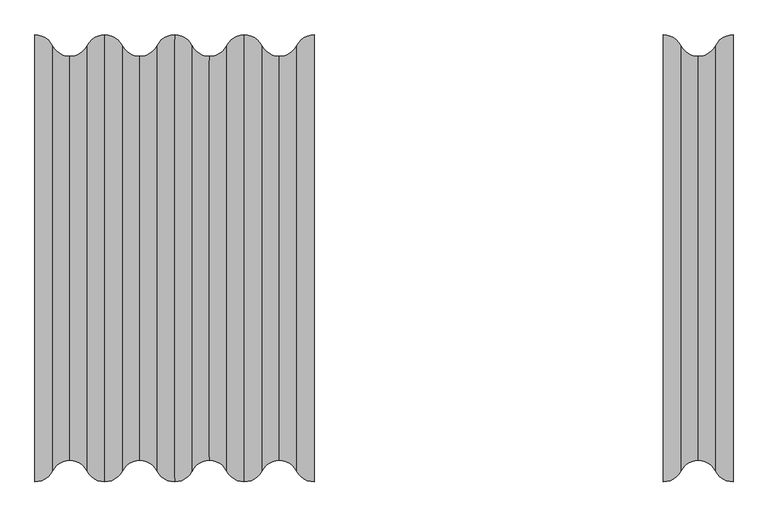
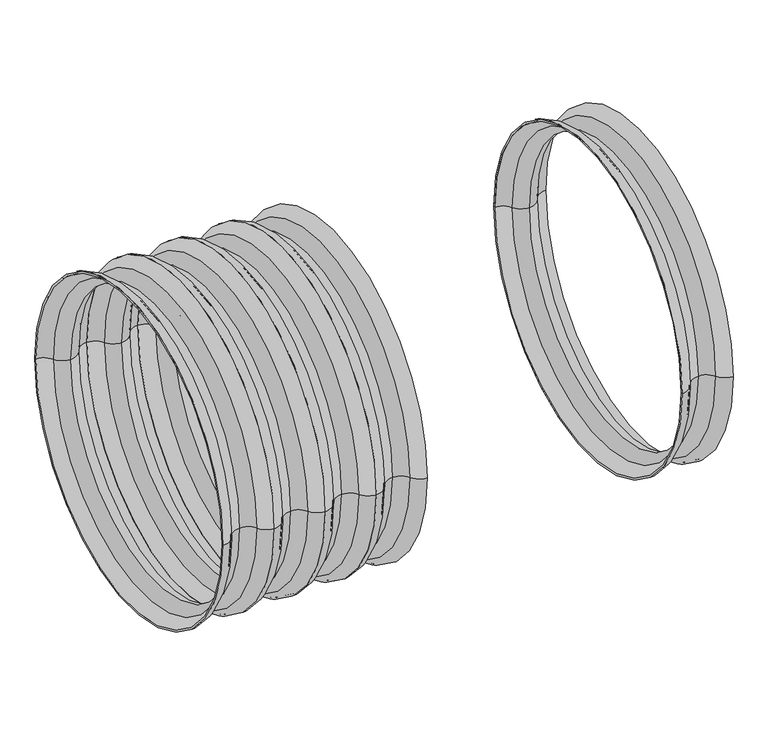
"""IFC4 building model written with IfcOpenShell, lengths in millimetres: pipe fitting geometry, Z_PIF_UN_Q-Bic_Plus_Shaft_Pipe_Wavin_(nested) : PP, RAL8012, ø600mm."""

from ifc_helpers import new_model, si_unit, point, frame, origin, place, context, project, spatial, circle_curve, ellipse_curve, trimmed, source, transform, mapped, element, save
from ifc_brep_helpers import plane_surface, revolved_surface, advanced_brep


def pipe_fitting_064eac1b(model_context):
    return source(origin(), model_context, "Body", "AdvancedBrep", [
        advanced_brep(
        [(420.0, -336.4, 0.0), (420.0, 336.4, 0.0), (446.25, 320.3, 0.0), (446.25, -320.3, 0.0), (420.0, -332.7, 0.0), (420.0, 332.7, 0.0), (446.25, -316.6, 0.0), (446.25, 316.6, 0.0), (472.5, -300.5, 0.0), (472.5, 300.5, 0.0), (498.75, -316.6, 0.0), (498.75, 316.6, 0.0), (525.0, -332.7, 0.0), (525.0, 332.7, 0.0), (525.0, -336.4, 0.0), (525.0, 336.4, 0.0), (498.75, -320.3, 0.0), (498.75, 320.3, 0.0), (472.5, -304.2, 0.0), (472.5, 304.2, 0.0)],
        [
            (0, 1, circle_curve(frame((420.0, 0.0, 0.0), z_axis=(1.0, 0.0, 0.0), x_axis=(0.0, 1.0, 0.0)), 336.4)),
            (1, 2, circle_curve(frame((420.0, 306.9505435, 0.0), z_axis=(0.0, 0.0, -1.0), x_axis=(1.0, 0.0, 0.0)), 29.4494565)),
            (2, 3, circle_curve(frame((446.25, 0.0, 0.0), z_axis=(-1.0, 0.0, 0.0), x_axis=(0.0, 1.0, 0.0)), 320.3)),
            (3, 0, circle_curve(frame((420.0, -306.9505435, 0.0), z_axis=(0.0, 0.0, -1.0), x_axis=(1.0, 0.0, 0.0)), 29.4494565)),
            (1, 0, circle_curve(frame((420.0, 0.0, 0.0), z_axis=(1.0, 0.0, 0.0), x_axis=(0.0, 1.0, 0.0)), 336.4)),
            (3, 2, circle_curve(frame((446.25, 0.0, 0.0), z_axis=(-1.0, 0.0, 0.0), x_axis=(0.0, 1.0, 0.0)), 320.3)),
            (4, 5, circle_curve(frame((420.0, 0.0, 0.0), z_axis=(1.0, 0.0, 0.0), x_axis=(0.0, 1.0, 0.0)), 332.7)),
            (5, 1),
            (0, 4),
            (5, 4, circle_curve(frame((420.0, 0.0, 0.0), z_axis=(1.0, 0.0, 0.0), x_axis=(0.0, 1.0, 0.0)), 332.7)),
            (6, 7, circle_curve(frame((446.25, 0.0, 0.0), z_axis=(1.0, 0.0, 0.0), x_axis=(0.0, 1.0, 0.0)), 316.6)),
            (7, 5, circle_curve(frame((420.0, 303.2505435, 0.0), z_axis=(0.0, 0.0, 1.0), x_axis=(1.0, 0.0, 0.0)), 29.4494565)),
            (4, 6, circle_curve(frame((420.0, -303.2505435, 0.0), z_axis=(0.0, 0.0, 1.0), x_axis=(1.0, 0.0, 0.0)), 29.4494565)),
            (7, 6, circle_curve(frame((446.25, 0.0, 0.0), z_axis=(1.0, 0.0, 0.0), x_axis=(0.0, 1.0, 0.0)), 316.6)),
            (8, 9, circle_curve(frame((472.5, 0.0, 0.0), z_axis=(1.0, 0.0, 0.0), x_axis=(0.0, 1.0, 0.0)), 300.5)),
            (9, 7, circle_curve(frame((472.5, 329.9494565, 0.0), z_axis=(0.0, 0.0, -1.0), x_axis=(1.0, 0.0, 0.0)), 29.4494565)),
            (6, 8, circle_curve(frame((472.5, -329.9494565, 0.0), z_axis=(0.0, 0.0, -1.0), x_axis=(1.0, 0.0, 0.0)), 29.4494565)),
            (9, 8, circle_curve(frame((472.5, 0.0, 0.0), z_axis=(1.0, 0.0, 0.0), x_axis=(0.0, 1.0, 0.0)), 300.5)),
            (10, 11, circle_curve(frame((498.75, 0.0, 0.0), z_axis=(1.0, 0.0, 0.0), x_axis=(0.0, 1.0, 0.0)), 316.6)),
            (11, 9, circle_curve(frame((472.5, 329.9494565, 0.0), z_axis=(0.0, 0.0, -1.0), x_axis=(1.0, 0.0, 0.0)), 29.4494565)),
            (8, 10, circle_curve(frame((472.5, -329.9494565, 0.0), z_axis=(0.0, 0.0, -1.0), x_axis=(1.0, 0.0, 0.0)), 29.4494565)),
            (11, 10, circle_curve(frame((498.75, 0.0, 0.0), z_axis=(1.0, 0.0, 0.0), x_axis=(0.0, 1.0, 0.0)), 316.6)),
            (12, 13, circle_curve(frame((525.0, 0.0, 0.0), z_axis=(1.0, 0.0, 0.0), x_axis=(0.0, 1.0, 0.0)), 332.7)),
            (13, 11, circle_curve(frame((525.0, 303.2505435, 0.0), z_axis=(0.0, 0.0, 1.0), x_axis=(1.0, 0.0, 0.0)), 29.4494565)),
            (10, 12, circle_curve(frame((525.0, -303.2505435, 0.0), z_axis=(0.0, 0.0, 1.0), x_axis=(1.0, 0.0, 0.0)), 29.4494565)),
            (13, 12, circle_curve(frame((525.0, 0.0, 0.0), z_axis=(1.0, 0.0, 0.0), x_axis=(0.0, 1.0, 0.0)), 332.7)),
            (14, 15, circle_curve(frame((525.0, 0.0, 0.0), z_axis=(1.0, 0.0, 0.0), x_axis=(0.0, 1.0, 0.0)), 336.4)),
            (15, 13),
            (12, 14),
            (15, 14, circle_curve(frame((525.0, 0.0, 0.0), z_axis=(1.0, 0.0, 0.0), x_axis=(0.0, 1.0, 0.0)), 336.4)),
            (16, 17, circle_curve(frame((498.75, 0.0, 0.0), z_axis=(1.0, 0.0, 0.0), x_axis=(0.0, 1.0, 0.0)), 320.3)),
            (17, 15, circle_curve(frame((525.0, 306.9505435, 0.0), z_axis=(0.0, 0.0, -1.0), x_axis=(1.0, 0.0, 0.0)), 29.4494565)),
            (14, 16, circle_curve(frame((525.0, -306.9505435, 0.0), z_axis=(0.0, 0.0, -1.0), x_axis=(1.0, 0.0, 0.0)), 29.4494565)),
            (17, 16, circle_curve(frame((498.75, 0.0, 0.0), z_axis=(1.0, 0.0, 0.0), x_axis=(0.0, 1.0, 0.0)), 320.3)),
            (18, 19, circle_curve(frame((472.5, 0.0, 0.0), z_axis=(1.0, 0.0, 0.0), x_axis=(0.0, 1.0, 0.0)), 304.2)),
            (19, 17, circle_curve(frame((472.5, 333.6494565, 0.0), z_axis=(0.0, 0.0, 1.0), x_axis=(1.0, 0.0, 0.0)), 29.4494565)),
            (16, 18, circle_curve(frame((472.5, -333.6494565, 0.0), z_axis=(0.0, 0.0, 1.0), x_axis=(1.0, 0.0, 0.0)), 29.4494565)),
            (19, 18, circle_curve(frame((472.5, 0.0, 0.0), z_axis=(1.0, 0.0, 0.0), x_axis=(0.0, 1.0, 0.0)), 304.2)),
            (2, 19, circle_curve(frame((472.5, 333.6494565, 0.0), z_axis=(0.0, 0.0, 1.0), x_axis=(1.0, 0.0, 0.0)), 29.4494565)),
            (18, 3, circle_curve(frame((472.5, -333.6494565, 0.0), z_axis=(0.0, 0.0, 1.0), x_axis=(1.0, 0.0, 0.0)), 29.4494565)),
        ],
        [
            revolved_surface(trimmed(ellipse_curve(frame((420.0, 306.9505435, 0.0), z_axis=(0.0, 0.0, 1.0), x_axis=(1.0, 0.0, 0.0)), 29.4494565, 29.4494565), [point((446.25, 320.3, 0.0))], [point((420.0, 336.4, 0.0))], True, "CARTESIAN"), (370.0, 0.0, 0.0), (-1.0, 0.0, 0.0)),
            plane_surface(frame((420.0, 0.0, 0.0), z_axis=(-1.0, 0.0, 0.0), x_axis=(0.0, 1.0, 0.0))),
            revolved_surface(trimmed(ellipse_curve(frame((420.0, 303.2505435, 0.0), z_axis=(0.0, 0.0, -1.0), x_axis=(1.0, 0.0, 0.0)), 29.4494565, 29.4494565), [point((420.0, 332.7, 0.0))], [point((446.25, 316.6, 0.0))], True, "CARTESIAN"), (370.0, 0.0, 0.0), (-1.0, 0.0, 0.0)),
            revolved_surface(trimmed(ellipse_curve(frame((472.5, 329.9494565, 0.0), z_axis=(0.0, 0.0, 1.0), x_axis=(1.0, 0.0, 0.0)), 29.4494565, 29.4494565), [point((446.25, 316.6, 0.0))], [point((472.5, 300.5, 0.0))], True, "CARTESIAN"), (370.0, 0.0, 0.0), (-1.0, 0.0, 0.0)),
            revolved_surface(trimmed(ellipse_curve(frame((472.5, 329.9494565, 0.0), z_axis=(0.0, 0.0, 1.0), x_axis=(1.0, 0.0, 0.0)), 29.4494565, 29.4494565), [point((472.5, 300.5, 0.0))], [point((498.75, 316.6, 0.0))], True, "CARTESIAN"), (370.0, 0.0, 0.0), (-1.0, 0.0, 0.0)),
            revolved_surface(trimmed(ellipse_curve(frame((525.0, 303.2505435, 0.0), z_axis=(0.0, 0.0, -1.0), x_axis=(1.0, 0.0, 0.0)), 29.4494565, 29.4494565), [point((498.75, 316.6, 0.0))], [point((525.0, 332.7, 0.0))], True, "CARTESIAN"), (370.0, 0.0, 0.0), (-1.0, 0.0, 0.0)),
            plane_surface(frame((525.0, 0.0, 0.0), z_axis=(1.0, 0.0, 0.0), x_axis=(0.0, 1.0, 0.0))),
            revolved_surface(trimmed(ellipse_curve(frame((525.0, 306.9505435, 0.0), z_axis=(0.0, 0.0, 1.0), x_axis=(1.0, 0.0, 0.0)), 29.4494565, 29.4494565), [point((525.0, 336.4, 0.0))], [point((498.75, 320.3, 0.0))], True, "CARTESIAN"), (370.0, 0.0, 0.0), (-1.0, 0.0, 0.0)),
            revolved_surface(trimmed(ellipse_curve(frame((472.5, 333.6494565, 0.0), z_axis=(0.0, 0.0, -1.0), x_axis=(1.0, 0.0, 0.0)), 29.4494565, 29.4494565), [point((498.75, 320.3, 0.0))], [point((472.5, 304.2, 0.0))], True, "CARTESIAN"), (370.0, 0.0, 0.0), (-1.0, 0.0, 0.0)),
            revolved_surface(trimmed(ellipse_curve(frame((472.5, 333.6494565, 0.0), z_axis=(0.0, 0.0, -1.0), x_axis=(1.0, 0.0, 0.0)), 29.4494565, 29.4494565), [point((472.5, 304.2, 0.0))], [point((446.25, 320.3, 0.0))], True, "CARTESIAN"), (370.0, 0.0, 0.0), (-1.0, 0.0, 0.0)),
        ],
        [
            (0, [[1, 2, 3, 4]]),
            (0, [[5, -4, 6, -2]]),
            (1, [[7, 8, -1, 9]]),
            (1, [[10, -9, -5, -8]]),
            (2, [[11, 12, -7, 13]]),
            (2, [[14, -13, -10, -12]]),
            (3, [[15, 16, -11, 17]]),
            (3, [[18, -17, -14, -16]]),
            (4, [[19, 20, -15, 21]]),
            (4, [[22, -21, -18, -20]]),
            (5, [[23, 24, -19, 25]]),
            (5, [[26, -25, -22, -24]]),
            (6, [[27, 28, -23, 29]]),
            (6, [[30, -29, -26, -28]]),
            (7, [[31, 32, -27, 33]]),
            (7, [[34, -33, -30, -32]]),
            (8, [[35, 36, -31, 37]]),
            (8, [[38, -37, -34, -36]]),
            (9, [[-3, 39, -35, 40]]),
            (9, [[-6, -40, -38, -39]]),
        ],
    ),
        advanced_brep(
        [(315.0, -336.4, 0.0), (315.0, 336.4, 0.0), (341.25, 320.3, 0.0), (341.25, -320.3, 0.0), (315.0, -332.7, 0.0), (315.0, 332.7, 0.0), (341.25, -316.6, 0.0), (341.25, 316.6, 0.0), (367.5, -300.5, 0.0), (367.5, 300.5, 0.0), (393.75, -316.6, 0.0), (393.75, 316.6, 0.0), (420.0, -332.7, 0.0), (420.0, 332.7, 0.0), (420.0, -336.4, 0.0), (420.0, 336.4, 0.0), (393.75, -320.3, 0.0), (393.75, 320.3, 0.0), (367.5, -304.2, 0.0), (367.5, 304.2, 0.0)],
        [
            (0, 1, circle_curve(frame((315.0, 0.0, 0.0), z_axis=(1.0, 0.0, 0.0), x_axis=(0.0, 1.0, 0.0)), 336.4)),
            (1, 2, circle_curve(frame((315.0, 306.9505435, 0.0), z_axis=(0.0, 0.0, -1.0), x_axis=(1.0, 0.0, 0.0)), 29.4494565)),
            (2, 3, circle_curve(frame((341.25, 0.0, 0.0), z_axis=(-1.0, 0.0, 0.0), x_axis=(0.0, 1.0, 0.0)), 320.3)),
            (3, 0, circle_curve(frame((315.0, -306.9505435, 0.0), z_axis=(0.0, 0.0, -1.0), x_axis=(1.0, 0.0, 0.0)), 29.4494565)),
            (1, 0, circle_curve(frame((315.0, 0.0, 0.0), z_axis=(1.0, 0.0, 0.0), x_axis=(0.0, 1.0, 0.0)), 336.4)),
            (3, 2, circle_curve(frame((341.25, 0.0, 0.0), z_axis=(-1.0, 0.0, 0.0), x_axis=(0.0, 1.0, 0.0)), 320.3)),
            (4, 5, circle_curve(frame((315.0, 0.0, 0.0), z_axis=(1.0, 0.0, 0.0), x_axis=(0.0, 1.0, 0.0)), 332.7)),
            (5, 1),
            (0, 4),
            (5, 4, circle_curve(frame((315.0, 0.0, 0.0), z_axis=(1.0, 0.0, 0.0), x_axis=(0.0, 1.0, 0.0)), 332.7)),
            (6, 7, circle_curve(frame((341.25, 0.0, 0.0), z_axis=(1.0, 0.0, 0.0), x_axis=(0.0, 1.0, 0.0)), 316.6)),
            (7, 5, circle_curve(frame((315.0, 303.2505435, 0.0), z_axis=(0.0, 0.0, 1.0), x_axis=(1.0, 0.0, 0.0)), 29.4494565)),
            (4, 6, circle_curve(frame((315.0, -303.2505435, 0.0), z_axis=(0.0, 0.0, 1.0), x_axis=(1.0, 0.0, 0.0)), 29.4494565)),
            (7, 6, circle_curve(frame((341.25, 0.0, 0.0), z_axis=(1.0, 0.0, 0.0), x_axis=(0.0, 1.0, 0.0)), 316.6)),
            (8, 9, circle_curve(frame((367.5, 0.0, 0.0), z_axis=(1.0, 0.0, 0.0), x_axis=(0.0, 1.0, 0.0)), 300.5)),
            (9, 7, circle_curve(frame((367.5, 329.9494565, 0.0), z_axis=(0.0, 0.0, -1.0), x_axis=(1.0, 0.0, 0.0)), 29.4494565)),
            (6, 8, circle_curve(frame((367.5, -329.9494565, 0.0), z_axis=(0.0, 0.0, -1.0), x_axis=(1.0, 0.0, 0.0)), 29.4494565)),
            (9, 8, circle_curve(frame((367.5, 0.0, 0.0), z_axis=(1.0, 0.0, 0.0), x_axis=(0.0, 1.0, 0.0)), 300.5)),
            (10, 11, circle_curve(frame((393.75, 0.0, 0.0), z_axis=(1.0, 0.0, 0.0), x_axis=(0.0, 1.0, 0.0)), 316.6)),
            (11, 9, circle_curve(frame((367.5, 329.9494565, 0.0), z_axis=(0.0, 0.0, -1.0), x_axis=(1.0, 0.0, 0.0)), 29.4494565)),
            (8, 10, circle_curve(frame((367.5, -329.9494565, 0.0), z_axis=(0.0, 0.0, -1.0), x_axis=(1.0, 0.0, 0.0)), 29.4494565)),
            (11, 10, circle_curve(frame((393.75, 0.0, 0.0), z_axis=(1.0, 0.0, 0.0), x_axis=(0.0, 1.0, 0.0)), 316.6)),
            (12, 13, circle_curve(frame((420.0, 0.0, 0.0), z_axis=(1.0, 0.0, 0.0), x_axis=(0.0, 1.0, 0.0)), 332.7)),
            (13, 11, circle_curve(frame((420.0, 303.2505435, 0.0), z_axis=(0.0, 0.0, 1.0), x_axis=(1.0, 0.0, 0.0)), 29.4494565)),
            (10, 12, circle_curve(frame((420.0, -303.2505435, 0.0), z_axis=(0.0, 0.0, 1.0), x_axis=(1.0, 0.0, 0.0)), 29.4494565)),
            (13, 12, circle_curve(frame((420.0, 0.0, 0.0), z_axis=(1.0, 0.0, 0.0), x_axis=(0.0, 1.0, 0.0)), 332.7)),
            (14, 15, circle_curve(frame((420.0, 0.0, 0.0), z_axis=(1.0, 0.0, 0.0), x_axis=(0.0, 1.0, 0.0)), 336.4)),
            (15, 13),
            (12, 14),
            (15, 14, circle_curve(frame((420.0, 0.0, 0.0), z_axis=(1.0, 0.0, 0.0), x_axis=(0.0, 1.0, 0.0)), 336.4)),
            (16, 17, circle_curve(frame((393.75, 0.0, 0.0), z_axis=(1.0, 0.0, 0.0), x_axis=(0.0, 1.0, 0.0)), 320.3)),
            (17, 15, circle_curve(frame((420.0, 306.9505435, 0.0), z_axis=(0.0, 0.0, -1.0), x_axis=(1.0, 0.0, 0.0)), 29.4494565)),
            (14, 16, circle_curve(frame((420.0, -306.9505435, 0.0), z_axis=(0.0, 0.0, -1.0), x_axis=(1.0, 0.0, 0.0)), 29.4494565)),
            (17, 16, circle_curve(frame((393.75, 0.0, 0.0), z_axis=(1.0, 0.0, 0.0), x_axis=(0.0, 1.0, 0.0)), 320.3)),
            (18, 19, circle_curve(frame((367.5, 0.0, 0.0), z_axis=(1.0, 0.0, 0.0), x_axis=(0.0, 1.0, 0.0)), 304.2)),
            (19, 17, circle_curve(frame((367.5, 333.6494565, 0.0), z_axis=(0.0, 0.0, 1.0), x_axis=(1.0, 0.0, 0.0)), 29.4494565)),
            (16, 18, circle_curve(frame((367.5, -333.6494565, 0.0), z_axis=(0.0, 0.0, 1.0), x_axis=(1.0, 0.0, 0.0)), 29.4494565)),
            (19, 18, circle_curve(frame((367.5, 0.0, 0.0), z_axis=(1.0, 0.0, 0.0), x_axis=(0.0, 1.0, 0.0)), 304.2)),
            (2, 19, circle_curve(frame((367.5, 333.6494565, 0.0), z_axis=(0.0, 0.0, 1.0), x_axis=(1.0, 0.0, 0.0)), 29.4494565)),
            (18, 3, circle_curve(frame((367.5, -333.6494565, 0.0), z_axis=(0.0, 0.0, 1.0), x_axis=(1.0, 0.0, 0.0)), 29.4494565)),
        ],
        [
            revolved_surface(trimmed(ellipse_curve(frame((315.0, 306.9505435, 0.0), z_axis=(0.0, 0.0, 1.0), x_axis=(1.0, 0.0, 0.0)), 29.4494565, 29.4494565), [point((341.25, 320.3, 0.0))], [point((315.0, 336.4, 0.0))], True, "CARTESIAN"), (265.0, 0.0, 0.0), (-1.0, 0.0, 0.0)),
            plane_surface(frame((315.0, 0.0, 0.0), z_axis=(-1.0, 0.0, 0.0), x_axis=(0.0, 1.0, 0.0))),
            revolved_surface(trimmed(ellipse_curve(frame((315.0, 303.2505435, 0.0), z_axis=(0.0, 0.0, -1.0), x_axis=(1.0, 0.0, 0.0)), 29.4494565, 29.4494565), [point((315.0, 332.7, 0.0))], [point((341.25, 316.6, 0.0))], True, "CARTESIAN"), (265.0, 0.0, 0.0), (-1.0, 0.0, 0.0)),
            revolved_surface(trimmed(ellipse_curve(frame((367.5, 329.9494565, 0.0), z_axis=(0.0, 0.0, 1.0), x_axis=(1.0, 0.0, 0.0)), 29.4494565, 29.4494565), [point((341.25, 316.6, 0.0))], [point((367.5, 300.5, 0.0))], True, "CARTESIAN"), (265.0, 0.0, 0.0), (-1.0, 0.0, 0.0)),
            revolved_surface(trimmed(ellipse_curve(frame((367.5, 329.9494565, 0.0), z_axis=(0.0, 0.0, 1.0), x_axis=(1.0, 0.0, 0.0)), 29.4494565, 29.4494565), [point((367.5, 300.5, 0.0))], [point((393.75, 316.6, 0.0))], True, "CARTESIAN"), (265.0, 0.0, 0.0), (-1.0, 0.0, 0.0)),
            revolved_surface(trimmed(ellipse_curve(frame((420.0, 303.2505435, 0.0), z_axis=(0.0, 0.0, -1.0), x_axis=(1.0, 0.0, 0.0)), 29.4494565, 29.4494565), [point((393.75, 316.6, 0.0))], [point((420.0, 332.7, 0.0))], True, "CARTESIAN"), (265.0, 0.0, 0.0), (-1.0, 0.0, 0.0)),
            plane_surface(frame((420.0, 0.0, 0.0), z_axis=(1.0, 0.0, 0.0), x_axis=(0.0, 1.0, 0.0))),
            revolved_surface(trimmed(ellipse_curve(frame((420.0, 306.9505435, 0.0), z_axis=(0.0, 0.0, 1.0), x_axis=(1.0, 0.0, 0.0)), 29.4494565, 29.4494565), [point((420.0, 336.4, 0.0))], [point((393.75, 320.3, 0.0))], True, "CARTESIAN"), (265.0, 0.0, 0.0), (-1.0, 0.0, 0.0)),
            revolved_surface(trimmed(ellipse_curve(frame((367.5, 333.6494565, 0.0), z_axis=(0.0, 0.0, -1.0), x_axis=(1.0, 0.0, 0.0)), 29.4494565, 29.4494565), [point((393.75, 320.3, 0.0))], [point((367.5, 304.2, 0.0))], True, "CARTESIAN"), (265.0, 0.0, 0.0), (-1.0, 0.0, 0.0)),
            revolved_surface(trimmed(ellipse_curve(frame((367.5, 333.6494565, 0.0), z_axis=(0.0, 0.0, -1.0), x_axis=(1.0, 0.0, 0.0)), 29.4494565, 29.4494565), [point((367.5, 304.2, 0.0))], [point((341.25, 320.3, 0.0))], True, "CARTESIAN"), (265.0, 0.0, 0.0), (-1.0, 0.0, 0.0)),
        ],
        [
            (0, [[1, 2, 3, 4]]),
            (0, [[5, -4, 6, -2]]),
            (1, [[7, 8, -1, 9]]),
            (1, [[10, -9, -5, -8]]),
            (2, [[11, 12, -7, 13]]),
            (2, [[14, -13, -10, -12]]),
            (3, [[15, 16, -11, 17]]),
            (3, [[18, -17, -14, -16]]),
            (4, [[19, 20, -15, 21]]),
            (4, [[22, -21, -18, -20]]),
            (5, [[23, 24, -19, 25]]),
            (5, [[26, -25, -22, -24]]),
            (6, [[27, 28, -23, 29]]),
            (6, [[30, -29, -26, -28]]),
            (7, [[31, 32, -27, 33]]),
            (7, [[34, -33, -30, -32]]),
            (8, [[35, 36, -31, 37]]),
            (8, [[38, -37, -34, -36]]),
            (9, [[-3, 39, -35, 40]]),
            (9, [[-6, -40, -38, -39]]),
        ],
    ),
        advanced_brep(
        [(210.0, -336.4, 0.0), (210.0, 336.4, 0.0), (236.25, 320.3, 0.0), (236.25, -320.3, 0.0), (210.0, -332.7, 0.0), (210.0, 332.7, 0.0), (236.25, -316.6, 0.0), (236.25, 316.6, 0.0), (262.5, -300.5, 0.0), (262.5, 300.5, 0.0), (288.75, -316.6, 0.0), (288.75, 316.6, 0.0), (315.0, -332.7, 0.0), (315.0, 332.7, 0.0), (315.0, -336.4, 0.0), (315.0, 336.4, 0.0), (288.75, -320.3, 0.0), (288.75, 320.3, 0.0), (262.5, -304.2, 0.0), (262.5, 304.2, 0.0)],
        [
            (0, 1, circle_curve(frame((210.0, 0.0, 0.0), z_axis=(1.0, 0.0, 0.0), x_axis=(0.0, 1.0, 0.0)), 336.4)),
            (1, 2, circle_curve(frame((210.0, 306.9505435, 0.0), z_axis=(0.0, 0.0, -1.0), x_axis=(1.0, 0.0, 0.0)), 29.4494565)),
            (2, 3, circle_curve(frame((236.25, 0.0, 0.0), z_axis=(-1.0, 0.0, 0.0), x_axis=(0.0, 1.0, 0.0)), 320.3)),
            (3, 0, circle_curve(frame((210.0, -306.9505435, 0.0), z_axis=(0.0, 0.0, -1.0), x_axis=(1.0, 0.0, 0.0)), 29.4494565)),
            (1, 0, circle_curve(frame((210.0, 0.0, 0.0), z_axis=(1.0, 0.0, 0.0), x_axis=(0.0, 1.0, 0.0)), 336.4)),
            (3, 2, circle_curve(frame((236.25, 0.0, 0.0), z_axis=(-1.0, 0.0, 0.0), x_axis=(0.0, 1.0, 0.0)), 320.3)),
            (4, 5, circle_curve(frame((210.0, 0.0, 0.0), z_axis=(1.0, 0.0, 0.0), x_axis=(0.0, 1.0, 0.0)), 332.7)),
            (5, 1),
            (0, 4),
            (5, 4, circle_curve(frame((210.0, 0.0, 0.0), z_axis=(1.0, 0.0, 0.0), x_axis=(0.0, 1.0, 0.0)), 332.7)),
            (6, 7, circle_curve(frame((236.25, 0.0, 0.0), z_axis=(1.0, 0.0, 0.0), x_axis=(0.0, 1.0, 0.0)), 316.6)),
            (7, 5, circle_curve(frame((210.0, 303.2505435, 0.0), z_axis=(0.0, 0.0, 1.0), x_axis=(1.0, 0.0, 0.0)), 29.4494565)),
            (4, 6, circle_curve(frame((210.0, -303.2505435, 0.0), z_axis=(0.0, 0.0, 1.0), x_axis=(1.0, 0.0, 0.0)), 29.4494565)),
            (7, 6, circle_curve(frame((236.25, 0.0, 0.0), z_axis=(1.0, 0.0, 0.0), x_axis=(0.0, 1.0, 0.0)), 316.6)),
            (8, 9, circle_curve(frame((262.5, 0.0, 0.0), z_axis=(1.0, 0.0, 0.0), x_axis=(0.0, 1.0, 0.0)), 300.5)),
            (9, 7, circle_curve(frame((262.5, 329.9494565, 0.0), z_axis=(0.0, 0.0, -1.0), x_axis=(1.0, 0.0, 0.0)), 29.4494565)),
            (6, 8, circle_curve(frame((262.5, -329.9494565, 0.0), z_axis=(0.0, 0.0, -1.0), x_axis=(1.0, 0.0, 0.0)), 29.4494565)),
            (9, 8, circle_curve(frame((262.5, 0.0, 0.0), z_axis=(1.0, 0.0, 0.0), x_axis=(0.0, 1.0, 0.0)), 300.5)),
            (10, 11, circle_curve(frame((288.75, 0.0, 0.0), z_axis=(1.0, 0.0, 0.0), x_axis=(0.0, 1.0, 0.0)), 316.6)),
            (11, 9, circle_curve(frame((262.5, 329.9494565, 0.0), z_axis=(0.0, 0.0, -1.0), x_axis=(1.0, 0.0, 0.0)), 29.4494565)),
            (8, 10, circle_curve(frame((262.5, -329.9494565, 0.0), z_axis=(0.0, 0.0, -1.0), x_axis=(1.0, 0.0, 0.0)), 29.4494565)),
            (11, 10, circle_curve(frame((288.75, 0.0, 0.0), z_axis=(1.0, 0.0, 0.0), x_axis=(0.0, 1.0, 0.0)), 316.6)),
            (12, 13, circle_curve(frame((315.0, 0.0, 0.0), z_axis=(1.0, 0.0, 0.0), x_axis=(0.0, 1.0, 0.0)), 332.7)),
            (13, 11, circle_curve(frame((315.0, 303.2505435, 0.0), z_axis=(0.0, 0.0, 1.0), x_axis=(1.0, 0.0, 0.0)), 29.4494565)),
            (10, 12, circle_curve(frame((315.0, -303.2505435, 0.0), z_axis=(0.0, 0.0, 1.0), x_axis=(1.0, 0.0, 0.0)), 29.4494565)),
            (13, 12, circle_curve(frame((315.0, 0.0, 0.0), z_axis=(1.0, 0.0, 0.0), x_axis=(0.0, 1.0, 0.0)), 332.7)),
            (14, 15, circle_curve(frame((315.0, 0.0, 0.0), z_axis=(1.0, 0.0, 0.0), x_axis=(0.0, 1.0, 0.0)), 336.4)),
            (15, 13),
            (12, 14),
            (15, 14, circle_curve(frame((315.0, 0.0, 0.0), z_axis=(1.0, 0.0, 0.0), x_axis=(0.0, 1.0, 0.0)), 336.4)),
            (16, 17, circle_curve(frame((288.75, 0.0, 0.0), z_axis=(1.0, 0.0, 0.0), x_axis=(0.0, 1.0, 0.0)), 320.3)),
            (17, 15, circle_curve(frame((315.0, 306.9505435, 0.0), z_axis=(0.0, 0.0, -1.0), x_axis=(1.0, 0.0, 0.0)), 29.4494565)),
            (14, 16, circle_curve(frame((315.0, -306.9505435, 0.0), z_axis=(0.0, 0.0, -1.0), x_axis=(1.0, 0.0, 0.0)), 29.4494565)),
            (17, 16, circle_curve(frame((288.75, 0.0, 0.0), z_axis=(1.0, 0.0, 0.0), x_axis=(0.0, 1.0, 0.0)), 320.3)),
            (18, 19, circle_curve(frame((262.5, 0.0, 0.0), z_axis=(1.0, 0.0, 0.0), x_axis=(0.0, 1.0, 0.0)), 304.2)),
            (19, 17, circle_curve(frame((262.5, 333.6494565, 0.0), z_axis=(0.0, 0.0, 1.0), x_axis=(1.0, 0.0, 0.0)), 29.4494565)),
            (16, 18, circle_curve(frame((262.5, -333.6494565, 0.0), z_axis=(0.0, 0.0, 1.0), x_axis=(1.0, 0.0, 0.0)), 29.4494565)),
            (19, 18, circle_curve(frame((262.5, 0.0, 0.0), z_axis=(1.0, 0.0, 0.0), x_axis=(0.0, 1.0, 0.0)), 304.2)),
            (2, 19, circle_curve(frame((262.5, 333.6494565, 0.0), z_axis=(0.0, 0.0, 1.0), x_axis=(1.0, 0.0, 0.0)), 29.4494565)),
            (18, 3, circle_curve(frame((262.5, -333.6494565, 0.0), z_axis=(0.0, 0.0, 1.0), x_axis=(1.0, 0.0, 0.0)), 29.4494565)),
        ],
        [
            revolved_surface(trimmed(ellipse_curve(frame((210.0, 306.9505435, 0.0), z_axis=(0.0, 0.0, 1.0), x_axis=(1.0, 0.0, 0.0)), 29.4494565, 29.4494565), [point((236.25, 320.3, 0.0))], [point((210.0, 336.4, 0.0))], True, "CARTESIAN"), (160.0, 0.0, 0.0), (-1.0, 0.0, 0.0)),
            plane_surface(frame((210.0, 0.0, 0.0), z_axis=(-1.0, 0.0, 0.0), x_axis=(0.0, 1.0, 0.0))),
            revolved_surface(trimmed(ellipse_curve(frame((210.0, 303.2505435, 0.0), z_axis=(0.0, 0.0, -1.0), x_axis=(1.0, 0.0, 0.0)), 29.4494565, 29.4494565), [point((210.0, 332.7, 0.0))], [point((236.25, 316.6, 0.0))], True, "CARTESIAN"), (160.0, 0.0, 0.0), (-1.0, 0.0, 0.0)),
            revolved_surface(trimmed(ellipse_curve(frame((262.5, 329.9494565, 0.0), z_axis=(0.0, 0.0, 1.0), x_axis=(1.0, 0.0, 0.0)), 29.4494565, 29.4494565), [point((236.25, 316.6, 0.0))], [point((262.5, 300.5, 0.0))], True, "CARTESIAN"), (160.0, 0.0, 0.0), (-1.0, 0.0, 0.0)),
            revolved_surface(trimmed(ellipse_curve(frame((262.5, 329.9494565, 0.0), z_axis=(0.0, 0.0, 1.0), x_axis=(1.0, 0.0, 0.0)), 29.4494565, 29.4494565), [point((262.5, 300.5, 0.0))], [point((288.75, 316.6, 0.0))], True, "CARTESIAN"), (160.0, 0.0, 0.0), (-1.0, 0.0, 0.0)),
            revolved_surface(trimmed(ellipse_curve(frame((315.0, 303.2505435, 0.0), z_axis=(0.0, 0.0, -1.0), x_axis=(1.0, 0.0, 0.0)), 29.4494565, 29.4494565), [point((288.75, 316.6, 0.0))], [point((315.0, 332.7, 0.0))], True, "CARTESIAN"), (160.0, 0.0, 0.0), (-1.0, 0.0, 0.0)),
            plane_surface(frame((315.0, 0.0, 0.0), z_axis=(1.0, 0.0, 0.0), x_axis=(0.0, 1.0, 0.0))),
            revolved_surface(trimmed(ellipse_curve(frame((315.0, 306.9505435, 0.0), z_axis=(0.0, 0.0, 1.0), x_axis=(1.0, 0.0, 0.0)), 29.4494565, 29.4494565), [point((315.0, 336.4, 0.0))], [point((288.75, 320.3, 0.0))], True, "CARTESIAN"), (160.0, 0.0, 0.0), (-1.0, 0.0, 0.0)),
            revolved_surface(trimmed(ellipse_curve(frame((262.5, 333.6494565, 0.0), z_axis=(0.0, 0.0, -1.0), x_axis=(1.0, 0.0, 0.0)), 29.4494565, 29.4494565), [point((288.75, 320.3, 0.0))], [point((262.5, 304.2, 0.0))], True, "CARTESIAN"), (160.0, 0.0, 0.0), (-1.0, 0.0, 0.0)),
            revolved_surface(trimmed(ellipse_curve(frame((262.5, 333.6494565, 0.0), z_axis=(0.0, 0.0, -1.0), x_axis=(1.0, 0.0, 0.0)), 29.4494565, 29.4494565), [point((262.5, 304.2, 0.0))], [point((236.25, 320.3, 0.0))], True, "CARTESIAN"), (160.0, 0.0, 0.0), (-1.0, 0.0, 0.0)),
        ],
        [
            (0, [[1, 2, 3, 4]]),
            (0, [[5, -4, 6, -2]]),
            (1, [[7, 8, -1, 9]]),
            (1, [[10, -9, -5, -8]]),
            (2, [[11, 12, -7, 13]]),
            (2, [[14, -13, -10, -12]]),
            (3, [[15, 16, -11, 17]]),
            (3, [[18, -17, -14, -16]]),
            (4, [[19, 20, -15, 21]]),
            (4, [[22, -21, -18, -20]]),
            (5, [[23, 24, -19, 25]]),
            (5, [[26, -25, -22, -24]]),
            (6, [[27, 28, -23, 29]]),
            (6, [[30, -29, -26, -28]]),
            (7, [[31, 32, -27, 33]]),
            (7, [[34, -33, -30, -32]]),
            (8, [[35, 36, -31, 37]]),
            (8, [[38, -37, -34, -36]]),
            (9, [[-3, 39, -35, 40]]),
            (9, [[-6, -40, -38, -39]]),
        ],
    ),
        advanced_brep(
        [(105.0, -336.4, 0.0), (105.0, 336.4, 0.0), (131.25, 320.3, 0.0), (131.25, -320.3, 0.0), (105.0, -332.7, 0.0), (105.0, 332.7, 0.0), (131.25, -316.6, 0.0), (131.25, 316.6, 0.0), (157.5, -300.5, 0.0), (157.5, 300.5, 0.0), (183.75, -316.6, 0.0), (183.75, 316.6, 0.0), (210.0, -332.7, 0.0), (210.0, 332.7, 0.0), (210.0, -336.4, 0.0), (210.0, 336.4, 0.0), (183.75, -320.3, 0.0), (183.75, 320.3, 0.0), (157.5, -304.2, 0.0), (157.5, 304.2, 0.0)],
        [
            (0, 1, circle_curve(frame((105.0, 0.0, 0.0), z_axis=(1.0, 0.0, 0.0), x_axis=(0.0, 1.0, 0.0)), 336.4)),
            (1, 2, circle_curve(frame((105.0, 306.9505435, 0.0), z_axis=(0.0, 0.0, -1.0), x_axis=(1.0, 0.0, 0.0)), 29.4494565)),
            (2, 3, circle_curve(frame((131.25, 0.0, 0.0), z_axis=(-1.0, 0.0, 0.0), x_axis=(0.0, 1.0, 0.0)), 320.3)),
            (3, 0, circle_curve(frame((105.0, -306.9505435, 0.0), z_axis=(0.0, 0.0, -1.0), x_axis=(1.0, 0.0, 0.0)), 29.4494565)),
            (1, 0, circle_curve(frame((105.0, 0.0, 0.0), z_axis=(1.0, 0.0, 0.0), x_axis=(0.0, 1.0, 0.0)), 336.4)),
            (3, 2, circle_curve(frame((131.25, 0.0, 0.0), z_axis=(-1.0, 0.0, 0.0), x_axis=(0.0, 1.0, 0.0)), 320.3)),
            (4, 5, circle_curve(frame((105.0, 0.0, 0.0), z_axis=(1.0, 0.0, 0.0), x_axis=(0.0, 1.0, 0.0)), 332.7)),
            (5, 1),
            (0, 4),
            (5, 4, circle_curve(frame((105.0, 0.0, 0.0), z_axis=(1.0, 0.0, 0.0), x_axis=(0.0, 1.0, 0.0)), 332.7)),
            (6, 7, circle_curve(frame((131.25, 0.0, 0.0), z_axis=(1.0, 0.0, 0.0), x_axis=(0.0, 1.0, 0.0)), 316.6)),
            (7, 5, circle_curve(frame((105.0, 303.2505435, 0.0), z_axis=(0.0, 0.0, 1.0), x_axis=(1.0, 0.0, 0.0)), 29.4494565)),
            (4, 6, circle_curve(frame((105.0, -303.2505435, 0.0), z_axis=(0.0, 0.0, 1.0), x_axis=(1.0, 0.0, 0.0)), 29.4494565)),
            (7, 6, circle_curve(frame((131.25, 0.0, 0.0), z_axis=(1.0, 0.0, 0.0), x_axis=(0.0, 1.0, 0.0)), 316.6)),
            (8, 9, circle_curve(frame((157.5, 0.0, 0.0), z_axis=(1.0, 0.0, 0.0), x_axis=(0.0, 1.0, 0.0)), 300.5)),
            (9, 7, circle_curve(frame((157.5, 329.9494565, 0.0), z_axis=(0.0, 0.0, -1.0), x_axis=(1.0, 0.0, 0.0)), 29.4494565)),
            (6, 8, circle_curve(frame((157.5, -329.9494565, 0.0), z_axis=(0.0, 0.0, -1.0), x_axis=(1.0, 0.0, 0.0)), 29.4494565)),
            (9, 8, circle_curve(frame((157.5, 0.0, 0.0), z_axis=(1.0, 0.0, 0.0), x_axis=(0.0, 1.0, 0.0)), 300.5)),
            (10, 11, circle_curve(frame((183.75, 0.0, 0.0), z_axis=(1.0, 0.0, 0.0), x_axis=(0.0, 1.0, 0.0)), 316.6)),
            (11, 9, circle_curve(frame((157.5, 329.9494565, 0.0), z_axis=(0.0, 0.0, -1.0), x_axis=(1.0, 0.0, 0.0)), 29.4494565)),
            (8, 10, circle_curve(frame((157.5, -329.9494565, 0.0), z_axis=(0.0, 0.0, -1.0), x_axis=(1.0, 0.0, 0.0)), 29.4494565)),
            (11, 10, circle_curve(frame((183.75, 0.0, 0.0), z_axis=(1.0, 0.0, 0.0), x_axis=(0.0, 1.0, 0.0)), 316.6)),
            (12, 13, circle_curve(frame((210.0, 0.0, 0.0), z_axis=(1.0, 0.0, 0.0), x_axis=(0.0, 1.0, 0.0)), 332.7)),
            (13, 11, circle_curve(frame((210.0, 303.2505435, 0.0), z_axis=(0.0, 0.0, 1.0), x_axis=(1.0, 0.0, 0.0)), 29.4494565)),
            (10, 12, circle_curve(frame((210.0, -303.2505435, 0.0), z_axis=(0.0, 0.0, 1.0), x_axis=(1.0, 0.0, 0.0)), 29.4494565)),
            (13, 12, circle_curve(frame((210.0, 0.0, 0.0), z_axis=(1.0, 0.0, 0.0), x_axis=(0.0, 1.0, 0.0)), 332.7)),
            (14, 15, circle_curve(frame((210.0, 0.0, 0.0), z_axis=(1.0, 0.0, 0.0), x_axis=(0.0, 1.0, 0.0)), 336.4)),
            (15, 13),
            (12, 14),
            (15, 14, circle_curve(frame((210.0, 0.0, 0.0), z_axis=(1.0, 0.0, 0.0), x_axis=(0.0, 1.0, 0.0)), 336.4)),
            (16, 17, circle_curve(frame((183.75, 0.0, 0.0), z_axis=(1.0, 0.0, 0.0), x_axis=(0.0, 1.0, 0.0)), 320.3)),
            (17, 15, circle_curve(frame((210.0, 306.9505435, 0.0), z_axis=(0.0, 0.0, -1.0), x_axis=(1.0, 0.0, 0.0)), 29.4494565)),
            (14, 16, circle_curve(frame((210.0, -306.9505435, 0.0), z_axis=(0.0, 0.0, -1.0), x_axis=(1.0, 0.0, 0.0)), 29.4494565)),
            (17, 16, circle_curve(frame((183.75, 0.0, 0.0), z_axis=(1.0, 0.0, 0.0), x_axis=(0.0, 1.0, 0.0)), 320.3)),
            (18, 19, circle_curve(frame((157.5, 0.0, 0.0), z_axis=(1.0, 0.0, 0.0), x_axis=(0.0, 1.0, 0.0)), 304.2)),
            (19, 17, circle_curve(frame((157.5, 333.6494565, 0.0), z_axis=(0.0, 0.0, 1.0), x_axis=(1.0, 0.0, 0.0)), 29.4494565)),
            (16, 18, circle_curve(frame((157.5, -333.6494565, 0.0), z_axis=(0.0, 0.0, 1.0), x_axis=(1.0, 0.0, 0.0)), 29.4494565)),
            (19, 18, circle_curve(frame((157.5, 0.0, 0.0), z_axis=(1.0, 0.0, 0.0), x_axis=(0.0, 1.0, 0.0)), 304.2)),
            (2, 19, circle_curve(frame((157.5, 333.6494565, 0.0), z_axis=(0.0, 0.0, 1.0), x_axis=(1.0, 0.0, 0.0)), 29.4494565)),
            (18, 3, circle_curve(frame((157.5, -333.6494565, 0.0), z_axis=(0.0, 0.0, 1.0), x_axis=(1.0, 0.0, 0.0)), 29.4494565)),
        ],
        [
            revolved_surface(trimmed(ellipse_curve(frame((105.0, 306.9505435, 0.0), z_axis=(0.0, 0.0, 1.0), x_axis=(1.0, 0.0, 0.0)), 29.4494565, 29.4494565), [point((131.25, 320.3, 0.0))], [point((105.0, 336.4, 0.0))], True, "CARTESIAN"), (55.0, 0.0, 0.0), (-1.0, 0.0, 0.0)),
            plane_surface(frame((105.0, 0.0, 0.0), z_axis=(-1.0, 0.0, 0.0), x_axis=(0.0, 1.0, 0.0))),
            revolved_surface(trimmed(ellipse_curve(frame((105.0, 303.2505435, 0.0), z_axis=(0.0, 0.0, -1.0), x_axis=(1.0, 0.0, 0.0)), 29.4494565, 29.4494565), [point((105.0, 332.7, 0.0))], [point((131.25, 316.6, 0.0))], True, "CARTESIAN"), (55.0, 0.0, 0.0), (-1.0, 0.0, 0.0)),
            revolved_surface(trimmed(ellipse_curve(frame((157.5, 329.9494565, 0.0), z_axis=(0.0, 0.0, 1.0), x_axis=(1.0, 0.0, 0.0)), 29.4494565, 29.4494565), [point((131.25, 316.6, 0.0))], [point((157.5, 300.5, 0.0))], True, "CARTESIAN"), (55.0, 0.0, 0.0), (-1.0, 0.0, 0.0)),
            revolved_surface(trimmed(ellipse_curve(frame((157.5, 329.9494565, 0.0), z_axis=(0.0, 0.0, 1.0), x_axis=(1.0, 0.0, 0.0)), 29.4494565, 29.4494565), [point((157.5, 300.5, 0.0))], [point((183.75, 316.6, 0.0))], True, "CARTESIAN"), (55.0, 0.0, 0.0), (-1.0, 0.0, 0.0)),
            revolved_surface(trimmed(ellipse_curve(frame((210.0, 303.2505435, 0.0), z_axis=(0.0, 0.0, -1.0), x_axis=(1.0, 0.0, 0.0)), 29.4494565, 29.4494565), [point((183.75, 316.6, 0.0))], [point((210.0, 332.7, 0.0))], True, "CARTESIAN"), (55.0, 0.0, 0.0), (-1.0, 0.0, 0.0)),
            plane_surface(frame((210.0, 0.0, 0.0), z_axis=(1.0, 0.0, 0.0), x_axis=(0.0, 1.0, 0.0))),
            revolved_surface(trimmed(ellipse_curve(frame((210.0, 306.9505435, 0.0), z_axis=(0.0, 0.0, 1.0), x_axis=(1.0, 0.0, 0.0)), 29.4494565, 29.4494565), [point((210.0, 336.4, 0.0))], [point((183.75, 320.3, 0.0))], True, "CARTESIAN"), (55.0, 0.0, 0.0), (-1.0, 0.0, 0.0)),
            revolved_surface(trimmed(ellipse_curve(frame((157.5, 333.6494565, 0.0), z_axis=(0.0, 0.0, -1.0), x_axis=(1.0, 0.0, 0.0)), 29.4494565, 29.4494565), [point((183.75, 320.3, 0.0))], [point((157.5, 304.2, 0.0))], True, "CARTESIAN"), (55.0, 0.0, 0.0), (-1.0, 0.0, 0.0)),
            revolved_surface(trimmed(ellipse_curve(frame((157.5, 333.6494565, 0.0), z_axis=(0.0, 0.0, -1.0), x_axis=(1.0, 0.0, 0.0)), 29.4494565, 29.4494565), [point((157.5, 304.2, 0.0))], [point((131.25, 320.3, 0.0))], True, "CARTESIAN"), (55.0, 0.0, 0.0), (-1.0, 0.0, 0.0)),
        ],
        [
            (0, [[1, 2, 3, 4]]),
            (0, [[5, -4, 6, -2]]),
            (1, [[7, 8, -1, 9]]),
            (1, [[10, -9, -5, -8]]),
            (2, [[11, 12, -7, 13]]),
            (2, [[14, -13, -10, -12]]),
            (3, [[15, 16, -11, 17]]),
            (3, [[18, -17, -14, -16]]),
            (4, [[19, 20, -15, 21]]),
            (4, [[22, -21, -18, -20]]),
            (5, [[23, 24, -19, 25]]),
            (5, [[26, -25, -22, -24]]),
            (6, [[27, 28, -23, 29]]),
            (6, [[30, -29, -26, -28]]),
            (7, [[31, 32, -27, 33]]),
            (7, [[34, -33, -30, -32]]),
            (8, [[35, 36, -31, 37]]),
            (8, [[38, -37, -34, -36]]),
            (9, [[-3, 39, -35, 40]]),
            (9, [[-6, -40, -38, -39]]),
        ],
    ),
        advanced_brep(
        [(1050.0, -336.4, 0.0), (1050.0, 336.4, 0.0), (1076.25, 320.3, 0.0), (1076.25, -320.3, 0.0), (1050.0, -332.7, 0.0), (1050.0, 332.7, 0.0), (1076.25, -316.6, 0.0), (1076.25, 316.6, 0.0), (1102.5, -300.5, 0.0), (1102.5, 300.5, 0.0), (1128.75, -316.6, 0.0), (1128.75, 316.6, 0.0), (1155.0, -332.7, 0.0), (1155.0, 332.7, 0.0), (1155.0, -336.4, 0.0), (1155.0, 336.4, 0.0), (1128.75, -320.3, 0.0), (1128.75, 320.3, 0.0), (1102.5, -304.2, 0.0), (1102.5, 304.2, 0.0)],
        [
            (0, 1, circle_curve(frame((1050.0, 0.0, 0.0), z_axis=(1.0, 0.0, 0.0), x_axis=(0.0, 1.0, 0.0)), 336.4)),
            (1, 2, circle_curve(frame((1050.0, 306.9505435, 0.0), z_axis=(0.0, 0.0, -1.0), x_axis=(1.0, 0.0, 0.0)), 29.4494565)),
            (2, 3, circle_curve(frame((1076.25, 0.0, 0.0), z_axis=(-1.0, 0.0, 0.0), x_axis=(0.0, 1.0, 0.0)), 320.3)),
            (3, 0, circle_curve(frame((1050.0, -306.9505435, 0.0), z_axis=(0.0, 0.0, -1.0), x_axis=(1.0, 0.0, 0.0)), 29.4494565)),
            (1, 0, circle_curve(frame((1050.0, 0.0, 0.0), z_axis=(1.0, 0.0, 0.0), x_axis=(0.0, 1.0, 0.0)), 336.4)),
            (3, 2, circle_curve(frame((1076.25, 0.0, 0.0), z_axis=(-1.0, 0.0, 0.0), x_axis=(0.0, 1.0, 0.0)), 320.3)),
            (4, 5, circle_curve(frame((1050.0, 0.0, 0.0), z_axis=(1.0, 0.0, 0.0), x_axis=(0.0, 1.0, 0.0)), 332.7)),
            (5, 1),
            (0, 4),
            (5, 4, circle_curve(frame((1050.0, 0.0, 0.0), z_axis=(1.0, 0.0, 0.0), x_axis=(0.0, 1.0, 0.0)), 332.7)),
            (6, 7, circle_curve(frame((1076.25, 0.0, 0.0), z_axis=(1.0, 0.0, 0.0), x_axis=(0.0, 1.0, 0.0)), 316.6)),
            (7, 5, circle_curve(frame((1050.0, 303.2505435, 0.0), z_axis=(0.0, 0.0, 1.0), x_axis=(1.0, 0.0, 0.0)), 29.4494565)),
            (4, 6, circle_curve(frame((1050.0, -303.2505435, 0.0), z_axis=(0.0, 0.0, 1.0), x_axis=(1.0, 0.0, 0.0)), 29.4494565)),
            (7, 6, circle_curve(frame((1076.25, 0.0, 0.0), z_axis=(1.0, 0.0, 0.0), x_axis=(0.0, 1.0, 0.0)), 316.6)),
            (8, 9, circle_curve(frame((1102.5, 0.0, 0.0), z_axis=(1.0, 0.0, 0.0), x_axis=(0.0, 1.0, 0.0)), 300.5)),
            (9, 7, circle_curve(frame((1102.5, 329.9494565, 0.0), z_axis=(0.0, 0.0, -1.0), x_axis=(1.0, 0.0, 0.0)), 29.4494565)),
            (6, 8, circle_curve(frame((1102.5, -329.9494565, 0.0), z_axis=(0.0, 0.0, -1.0), x_axis=(1.0, 0.0, 0.0)), 29.4494565)),
            (9, 8, circle_curve(frame((1102.5, 0.0, 0.0), z_axis=(1.0, 0.0, 0.0), x_axis=(0.0, 1.0, 0.0)), 300.5)),
            (10, 11, circle_curve(frame((1128.75, 0.0, 0.0), z_axis=(1.0, 0.0, 0.0), x_axis=(0.0, 1.0, 0.0)), 316.6)),
            (11, 9, circle_curve(frame((1102.5, 329.9494565, 0.0), z_axis=(0.0, 0.0, -1.0), x_axis=(1.0, 0.0, 0.0)), 29.4494565)),
            (8, 10, circle_curve(frame((1102.5, -329.9494565, 0.0), z_axis=(0.0, 0.0, -1.0), x_axis=(1.0, 0.0, 0.0)), 29.4494565)),
            (11, 10, circle_curve(frame((1128.75, 0.0, 0.0), z_axis=(1.0, 0.0, 0.0), x_axis=(0.0, 1.0, 0.0)), 316.6)),
            (12, 13, circle_curve(frame((1155.0, 0.0, 0.0), z_axis=(1.0, 0.0, 0.0), x_axis=(0.0, 1.0, 0.0)), 332.7)),
            (13, 11, circle_curve(frame((1155.0, 303.2505435, 0.0), z_axis=(0.0, 0.0, 1.0), x_axis=(1.0, 0.0, 0.0)), 29.4494565)),
            (10, 12, circle_curve(frame((1155.0, -303.2505435, 0.0), z_axis=(0.0, 0.0, 1.0), x_axis=(1.0, 0.0, 0.0)), 29.4494565)),
            (13, 12, circle_curve(frame((1155.0, 0.0, 0.0), z_axis=(1.0, 0.0, 0.0), x_axis=(0.0, 1.0, 0.0)), 332.7)),
            (14, 15, circle_curve(frame((1155.0, 0.0, 0.0), z_axis=(1.0, 0.0, 0.0), x_axis=(0.0, 1.0, 0.0)), 336.4)),
            (15, 13),
            (12, 14),
            (15, 14, circle_curve(frame((1155.0, 0.0, 0.0), z_axis=(1.0, 0.0, 0.0), x_axis=(0.0, 1.0, 0.0)), 336.4)),
            (16, 17, circle_curve(frame((1128.75, 0.0, 0.0), z_axis=(1.0, 0.0, 0.0), x_axis=(0.0, 1.0, 0.0)), 320.3)),
            (17, 15, circle_curve(frame((1155.0, 306.9505435, 0.0), z_axis=(0.0, 0.0, -1.0), x_axis=(1.0, 0.0, 0.0)), 29.4494565)),
            (14, 16, circle_curve(frame((1155.0, -306.9505435, 0.0), z_axis=(0.0, 0.0, -1.0), x_axis=(1.0, 0.0, 0.0)), 29.4494565)),
            (17, 16, circle_curve(frame((1128.75, 0.0, 0.0), z_axis=(1.0, 0.0, 0.0), x_axis=(0.0, 1.0, 0.0)), 320.3)),
            (18, 19, circle_curve(frame((1102.5, 0.0, 0.0), z_axis=(1.0, 0.0, 0.0), x_axis=(0.0, 1.0, 0.0)), 304.2)),
            (19, 17, circle_curve(frame((1102.5, 333.6494565, 0.0), z_axis=(0.0, 0.0, 1.0), x_axis=(1.0, 0.0, 0.0)), 29.4494565)),
            (16, 18, circle_curve(frame((1102.5, -333.6494565, 0.0), z_axis=(0.0, 0.0, 1.0), x_axis=(1.0, 0.0, 0.0)), 29.4494565)),
            (19, 18, circle_curve(frame((1102.5, 0.0, 0.0), z_axis=(1.0, 0.0, 0.0), x_axis=(0.0, 1.0, 0.0)), 304.2)),
            (2, 19, circle_curve(frame((1102.5, 333.6494565, 0.0), z_axis=(0.0, 0.0, 1.0), x_axis=(1.0, 0.0, 0.0)), 29.4494565)),
            (18, 3, circle_curve(frame((1102.5, -333.6494565, 0.0), z_axis=(0.0, 0.0, 1.0), x_axis=(1.0, 0.0, 0.0)), 29.4494565)),
        ],
        [
            revolved_surface(trimmed(ellipse_curve(frame((1050.0, 306.9505435, 0.0), z_axis=(0.0, 0.0, 1.0), x_axis=(1.0, 0.0, 0.0)), 29.4494565, 29.4494565), [point((1076.25, 320.3, 0.0))], [point((1050.0, 336.4, 0.0))], True, "CARTESIAN"), (1000.0, 0.0, 0.0), (-1.0, 0.0, 0.0)),
            plane_surface(frame((1050.0, 0.0, 0.0), z_axis=(-1.0, 0.0, 0.0), x_axis=(0.0, 1.0, 0.0))),
            revolved_surface(trimmed(ellipse_curve(frame((1050.0, 303.2505435, 0.0), z_axis=(0.0, 0.0, -1.0), x_axis=(1.0, 0.0, 0.0)), 29.4494565, 29.4494565), [point((1050.0, 332.7, 0.0))], [point((1076.25, 316.6, 0.0))], True, "CARTESIAN"), (1000.0, 0.0, 0.0), (-1.0, 0.0, 0.0)),
            revolved_surface(trimmed(ellipse_curve(frame((1102.5, 329.9494565, 0.0), z_axis=(0.0, 0.0, 1.0), x_axis=(1.0, 0.0, 0.0)), 29.4494565, 29.4494565), [point((1076.25, 316.6, 0.0))], [point((1102.5, 300.5, 0.0))], True, "CARTESIAN"), (1000.0, 0.0, 0.0), (-1.0, 0.0, 0.0)),
            revolved_surface(trimmed(ellipse_curve(frame((1102.5, 329.9494565, 0.0), z_axis=(0.0, 0.0, 1.0), x_axis=(1.0, 0.0, 0.0)), 29.4494565, 29.4494565), [point((1102.5, 300.5, 0.0))], [point((1128.75, 316.6, 0.0))], True, "CARTESIAN"), (1000.0, 0.0, 0.0), (-1.0, 0.0, 0.0)),
            revolved_surface(trimmed(ellipse_curve(frame((1155.0, 303.2505435, 0.0), z_axis=(0.0, 0.0, -1.0), x_axis=(1.0, 0.0, 0.0)), 29.4494565, 29.4494565), [point((1128.75, 316.6, 0.0))], [point((1155.0, 332.7, 0.0))], True, "CARTESIAN"), (1000.0, 0.0, 0.0), (-1.0, 0.0, 0.0)),
            plane_surface(frame((1155.0, 0.0, 0.0), z_axis=(1.0, 0.0, 0.0), x_axis=(0.0, 1.0, 0.0))),
            revolved_surface(trimmed(ellipse_curve(frame((1155.0, 306.9505435, 0.0), z_axis=(0.0, 0.0, 1.0), x_axis=(1.0, 0.0, 0.0)), 29.4494565, 29.4494565), [point((1155.0, 336.4, 0.0))], [point((1128.75, 320.3, 0.0))], True, "CARTESIAN"), (1000.0, 0.0, 0.0), (-1.0, 0.0, 0.0)),
            revolved_surface(trimmed(ellipse_curve(frame((1102.5, 333.6494565, 0.0), z_axis=(0.0, 0.0, -1.0), x_axis=(1.0, 0.0, 0.0)), 29.4494565, 29.4494565), [point((1128.75, 320.3, 0.0))], [point((1102.5, 304.2, 0.0))], True, "CARTESIAN"), (1000.0, 0.0, 0.0), (-1.0, 0.0, 0.0)),
            revolved_surface(trimmed(ellipse_curve(frame((1102.5, 333.6494565, 0.0), z_axis=(0.0, 0.0, -1.0), x_axis=(1.0, 0.0, 0.0)), 29.4494565, 29.4494565), [point((1102.5, 304.2, 0.0))], [point((1076.25, 320.3, 0.0))], True, "CARTESIAN"), (1000.0, 0.0, 0.0), (-1.0, 0.0, 0.0)),
        ],
        [
            (0, [[1, 2, 3, 4]]),
            (0, [[5, -4, 6, -2]]),
            (1, [[7, 8, -1, 9]]),
            (1, [[10, -9, -5, -8]]),
            (2, [[11, 12, -7, 13]]),
            (2, [[14, -13, -10, -12]]),
            (3, [[15, 16, -11, 17]]),
            (3, [[18, -17, -14, -16]]),
            (4, [[19, 20, -15, 21]]),
            (4, [[22, -21, -18, -20]]),
            (5, [[23, 24, -19, 25]]),
            (5, [[26, -25, -22, -24]]),
            (6, [[27, 28, -23, 29]]),
            (6, [[30, -29, -26, -28]]),
            (7, [[31, 32, -27, 33]]),
            (7, [[34, -33, -30, -32]]),
            (8, [[35, 36, -31, 37]]),
            (8, [[38, -37, -34, -36]]),
            (9, [[-3, 39, -35, 40]]),
            (9, [[-6, -40, -38, -39]]),
        ],
    ),
    ])


if __name__ == "__main__":
    model = new_model("IFC4")
    model_context = context("Model", 3, world=origin())
    ifc_project = project(units=[si_unit("LENGTHUNIT", "METRE", prefix="MILLI")], contexts=[model_context])
    site = spatial("IfcSite", under=ifc_project)
    building = spatial("IfcBuilding", under=site)
    placement = place(None, origin())
    pipe_fitting_shape = pipe_fitting_064eac1b(model_context)
    element("IfcPipeFitting", 1, ObjectType="Z_PIF_UN_Q-Bic_Plus_Shaft_Pipe_Wavin_(nested) : PP, RAL8012, ø600mm", at=placement, inside=building, context=model_context, shape_type="MappedRepresentation", body=[
        mapped(pipe_fitting_shape, transform((0.0, 0.0, 0.0), x_axis=(1.0, 0.0, 0.0), y_axis=(0.0, 1.0, 0.0), z_axis=(0.0, 0.0, 1.0))),
    ])
    save(model, "model.ifc")
